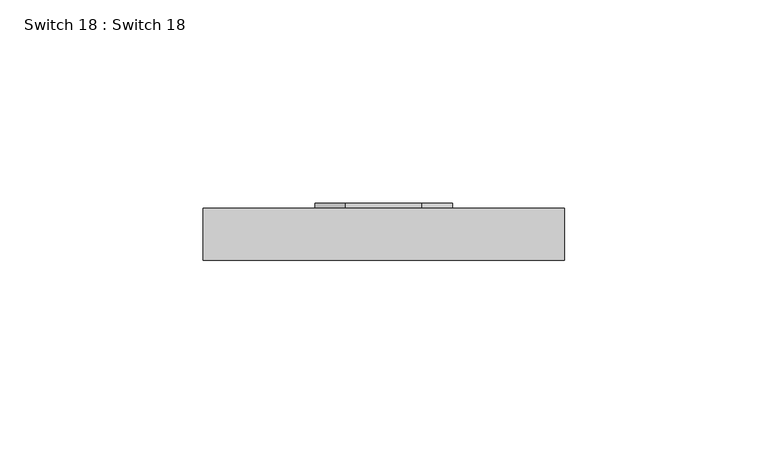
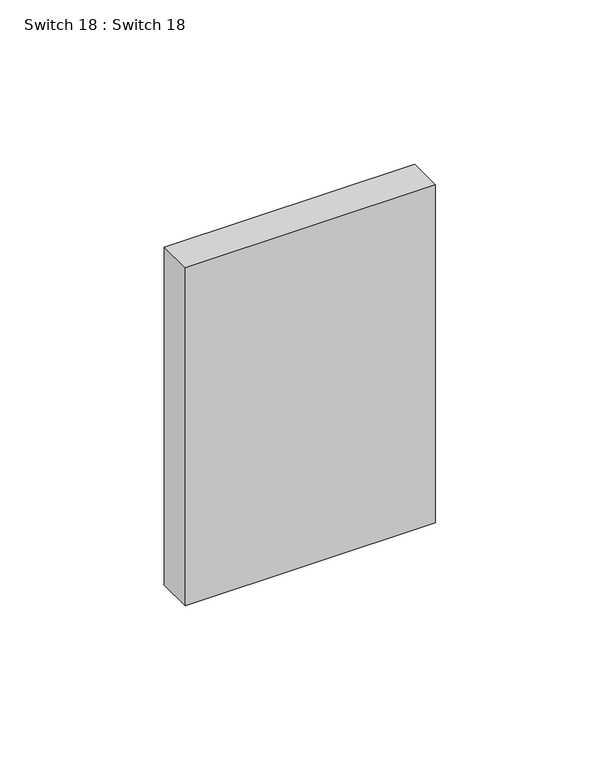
"""IFC4 building model written with IfcOpenShell, lengths in millimetres: proxy geometry, Switch 18 : Switch 18."""

from ifc_helpers import new_model, si_unit, point, frame, frame_2d, origin, origin_with_axes, place, context, project, spatial, polyline, circle_curve, trimmed, segment, composite_curve, outline, extrude, source, transform, mapped, element, save


def switch_18_switch_18_b948fae5(model_context):
    return source(origin(), model_context, "Body", "SweptSolid", [
        extrude(outline(composite_curve([segment(trimmed(circle_curve(frame_2d((63.5, -3.5833425)), 17.002253), [point((49.3705237, 5.8736395))], [point((77.6294763, 5.8736395))], False, "CARTESIAN"), True, "CONTINUOUS"), segment(polyline([(77.6294763, 5.8736395), (77.6294763, -12.8795988)]), True, "CONTINUOUS"), segment(trimmed(circle_curve(frame_2d((63.5, -3.4226169)), 17.002253), [point((77.6294763, -12.8795988))], [point((49.3705237, -12.8795988))], False, "CARTESIAN"), True, "CONTINUOUS"), segment(polyline([(49.3705237, -12.8795988), (49.3705237, 5.8736395)]), True, "CONTINUOUS")], self_intersect=False), holes=[polyline([(71.035527, -7.7983059), (62.0590541, -7.7983059), (62.0590541, -11.4410858), (71.035527, -11.4410858), (71.035527, -7.7983059)]), polyline([(71.0964286, 1.1283513), (71.0964286, 4.9339173), (62.1402229, 4.9339173), (62.1402229, 1.1283513), (71.0964286, 1.1283513)]), composite_curve([segment(polyline([(50.9680282, 0.1460814), (50.9680282, -6.9792292), (54.3955962, -6.9792292)]), True, "CONTINUOUS"), segment(trimmed(circle_curve(frame_2d((54.3955962, -3.4165739)), 3.5626553), [point((54.3955962, -6.9792292))], [point((54.3955962, 0.1460814))], True, "CARTESIAN"), True, "CONTINUOUS"), segment(polyline([(54.3955962, 0.1460814), (50.9680282, 0.1460814)]), True, "CONTINUOUS")], self_intersect=False)]), frame((0.0, 12.7, 0.0), z_axis=(0.0, 1.0, 0.0), x_axis=(0.0, 0.0, 1.0)), (0.0, 0.0, 1.0), 1.2829052),
        extrude(outline(polyline([(-47.9529797, 12.7), (40.9470203, 12.7), (40.9470203, 0.0), (-47.9529797, 0.0), (-47.9529797, 12.7)])), origin_with_axes(), (0.0, 0.0, 1.0), 127.0),
    ])


if __name__ == "__main__":
    model = new_model("IFC4")
    model_context = context("Model", 3, world=origin())
    ifc_project = project(units=[si_unit("LENGTHUNIT", "METRE", prefix="MILLI")], contexts=[model_context])
    site = spatial("IfcSite", under=ifc_project)
    building = spatial("IfcBuilding", under=site)
    placement = place(None, origin())
    switch_18_switch_18_shape = switch_18_switch_18_b948fae5(model_context)
    element("IfcBuildingElementProxy", 1, Name="Switch 18 : Switch 18", ObjectType="Switch 18 : Switch 18", at=placement, inside=building, context=model_context, shape_type="MappedRepresentation", body=[
        mapped(switch_18_switch_18_shape, transform((0.0, 0.0, 0.0), x_axis=(1.0, 0.0, 0.0), y_axis=(0.0, 1.0, 0.0), z_axis=(0.0, 0.0, 1.0))),
    ])
    save(model, "model.ifc")
